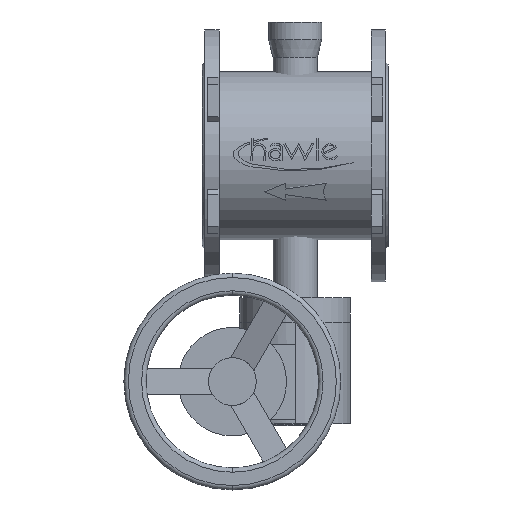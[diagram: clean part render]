
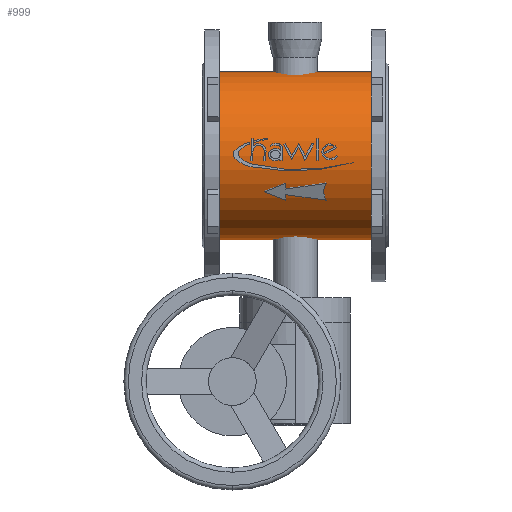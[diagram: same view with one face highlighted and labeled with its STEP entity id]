
A CAD part, top view. The second image highlights one B-rep face of the part: STEP entity #999.
In plain terms, the highlighted cylindrical face has radius 95 mm (diameter 190 mm), a partial arc.
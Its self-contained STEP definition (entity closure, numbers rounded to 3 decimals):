
#999=ADVANCED_FACE('',(#2067),#2068,.T.);
#2067=FACE_OUTER_BOUND('',#3558,.T.);
#2068=CYLINDRICAL_SURFACE('',#3559,95.0);
#3558=EDGE_LOOP('',(#5144,#5145,#5146,#5147));
#3559=AXIS2_PLACEMENT_3D('',#5148,#5149,#5150);
#5144=ORIENTED_EDGE('',*,*,#8002,.T.);
#5145=ORIENTED_EDGE('',*,*,#8108,.T.);
#5146=ORIENTED_EDGE('',*,*,#8004,.T.);
#5147=ORIENTED_EDGE('',*,*,#8109,.T.);
#5148=CARTESIAN_POINT('',(-191.0,0.,0.0));
#5149=DIRECTION('',(1.0,0.,0.0));
#5150=DIRECTION('',(0.,-1.0,0.0));
#8002=EDGE_CURVE('',#9433,#9434,#9435,.T.);
#8004=EDGE_CURVE('',#9438,#9436,#9439,.T.);
#8108=EDGE_CURVE('',#9434,#9438,#9609,.T.);
#8109=EDGE_CURVE('',#9436,#9433,#9610,.T.);
#9433=VERTEX_POINT('',#11354);
#9434=VERTEX_POINT('',#11355);
#9435=LINE('',#11356,#11357);
#9436=VERTEX_POINT('',#11358);
#9438=VERTEX_POINT('',#11360);
#9439=LINE('',#11361,#11362);
#9609=CIRCLE('',#11585,95.0);
#9610=CIRCLE('',#11586,95.0);
#11354=CARTESIAN_POINT('',(-191.0,-95.0,0.0));
#11355=CARTESIAN_POINT('',(-19.0,-95.0,0.0));
#11356=CARTESIAN_POINT('',(-191.0,-95.0,0.));
#11357=VECTOR('',#13526,1.0);
#11358=CARTESIAN_POINT('',(-191.0,95.0,0.));
#11360=CARTESIAN_POINT('',(-19.0,95.0,0.));
#11361=CARTESIAN_POINT('',(-191.0,95.0,0.));
#11362=VECTOR('',#13530,1.0);
#11585=AXIS2_PLACEMENT_3D('',#13659,#13660,#13661);
#11586=AXIS2_PLACEMENT_3D('',#13662,#13663,#13664);
#13526=DIRECTION('',(1.0,0.,0.0));
#13530=DIRECTION('',(-1.0,0.,-0.0));
#13659=CARTESIAN_POINT('',(-19.0,0.,0.0));
#13660=DIRECTION('',(-1.0,0.,0.0));
#13661=DIRECTION('',(0.,-1.0,0.0));
#13662=CARTESIAN_POINT('',(-191.0,0.,0.0));
#13663=DIRECTION('',(1.0,0.,0.0));
#13664=DIRECTION('',(0.,-1.0,0.0));
